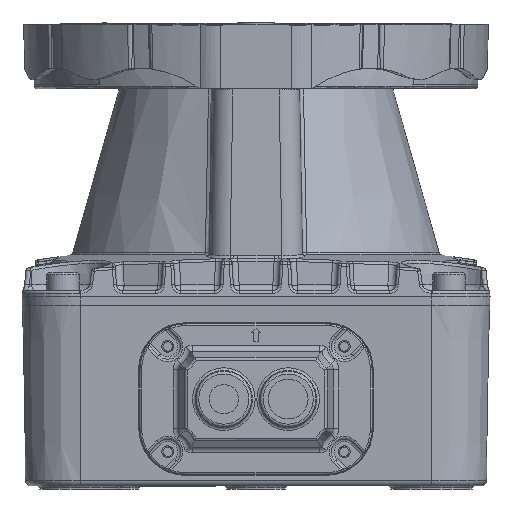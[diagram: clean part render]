
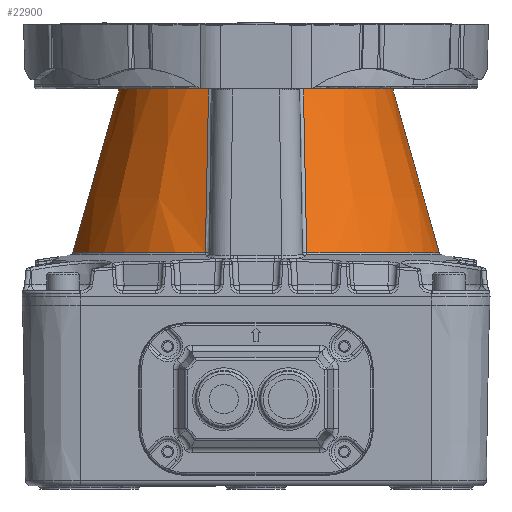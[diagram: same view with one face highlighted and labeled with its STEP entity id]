
A CAD part, front view. The second image highlights one B-rep face of the part: STEP entity #22900.
In plain terms, the highlighted conical face has half-angle 16 degrees and reference radius 31.588 mm.
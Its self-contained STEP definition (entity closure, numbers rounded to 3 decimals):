
#22900=ADVANCED_FACE('',(#27943),#27075,.T.);
#27075=CONICAL_SURFACE('',#96265,31.588,16.);
#27943=FACE_OUTER_BOUND('',#32424,.T.);
#32424=EDGE_LOOP('',(#55287,#55288,#55289,#55290));
#50746=CIRCLE('',#96263,31.406);
#50747=CIRCLE('',#96264,23.372);
#55287=ORIENTED_EDGE('',*,*,#83290,.T.);
#55288=ORIENTED_EDGE('',*,*,#83291,.T.);
#55289=ORIENTED_EDGE('',*,*,#83292,.T.);
#55290=ORIENTED_EDGE('',*,*,#83293,.F.);
#75744=VERTEX_POINT('',#130059);
#75745=VERTEX_POINT('',#130060);
#75746=VERTEX_POINT('',#130062);
#75747=VERTEX_POINT('',#130067);
#83290=EDGE_CURVE('',#75744,#75745,#93256,.T.);
#83291=EDGE_CURVE('',#75745,#75746,#50746,.T.);
#83292=EDGE_CURVE('',#75746,#75747,#93257,.T.);
#83293=EDGE_CURVE('',#75744,#75747,#50747,.T.);
#93256=B_SPLINE_CURVE_WITH_KNOTS('',3,(#130055,#130056,#130057,#130058),
 .UNSPECIFIED.,.F.,.F.,(4,4),(0.,1.),.UNSPECIFIED.);
#93257=B_SPLINE_CURVE_WITH_KNOTS('',3,(#130063,#130064,#130065,#130066),
 .UNSPECIFIED.,.F.,.F.,(4,4),(0.,1.),.UNSPECIFIED.);
#96263=AXIS2_PLACEMENT_3D('',#130061,#104102,#104103);
#96264=AXIS2_PLACEMENT_3D('',#130068,#104104,#104105);
#96265=AXIS2_PLACEMENT_3D('',#130069,#104106,#104107);
#104102=DIRECTION('',(0.,0.,1.));
#104103=DIRECTION('',(-1.,0.,0.));
#104104=DIRECTION('',(0.,0.,1.));
#104105=DIRECTION('',(-1.,0.,0.));
#104106=DIRECTION('',(0.,0.,-1.));
#104107=DIRECTION('',(-1.,0.,0.));
#130055=CARTESIAN_POINT('',(8.107,-21.921,3.953));
#130056=CARTESIAN_POINT('',(8.272,-24.289,-3.991));
#130057=CARTESIAN_POINT('',(8.458,-27.044,-13.331));
#130058=CARTESIAN_POINT('',(8.665,-30.188,-24.067));
#130059=CARTESIAN_POINT('',(8.107,-21.921,3.953));
#130060=CARTESIAN_POINT('',(8.665,-30.188,-24.067));
#130061=CARTESIAN_POINT('',(0.,0.,-24.067));
#130062=CARTESIAN_POINT('',(-8.665,-30.188,-24.067));
#130063=CARTESIAN_POINT('',(-8.665,-30.188,-24.067));
#130064=CARTESIAN_POINT('',(-8.458,-27.044,-13.331));
#130065=CARTESIAN_POINT('',(-8.272,-24.289,-3.991));
#130066=CARTESIAN_POINT('',(-8.107,-21.921,3.953));
#130067=CARTESIAN_POINT('',(-8.107,-21.921,3.953));
#130068=CARTESIAN_POINT('',(0.,0.,3.953));
#130069=CARTESIAN_POINT('',(0.,0.,-24.701));
